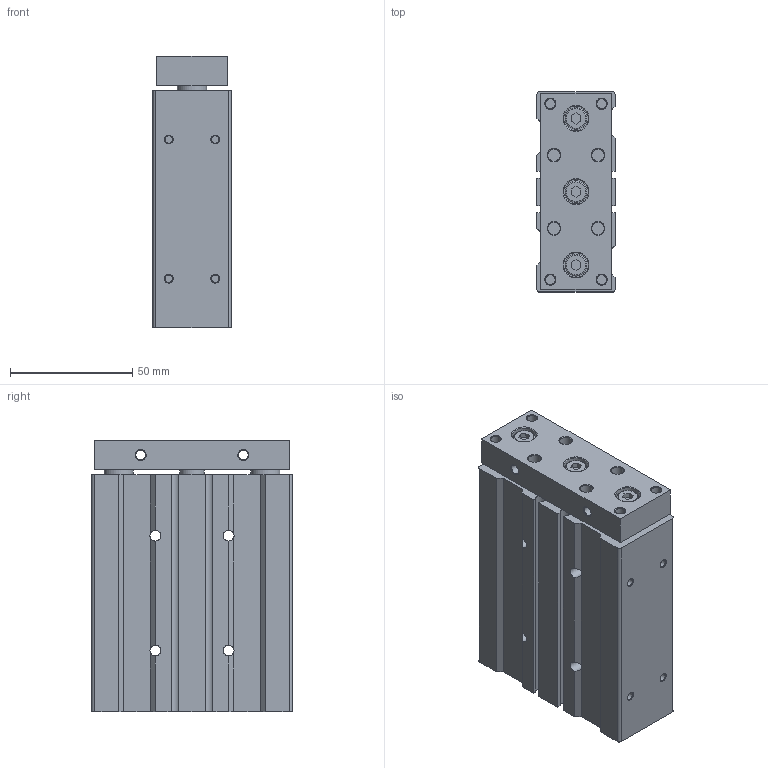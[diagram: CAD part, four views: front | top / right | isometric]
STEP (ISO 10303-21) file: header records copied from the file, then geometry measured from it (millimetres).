
FILE_DESCRIPTION((''),'2;1');
FILE_NAME('I:\3D電子目錄\氣缸\TB(U)\TB(U)20\TB(U)20\TB(U)20x50.stp','2007-08-06T08:22:06',('Administrator'),(''),'Autodesk Inventor 2008','Autodesk Inventor 2008','');
FILE_SCHEMA(('AUTOMOTIVE_DESIGN { 1 0 10303 214 1 1 1 1 }'));
Length unit declared in the file: millimetre
Products named in the file (1): TB(U)20X50
Bounding box: 32 x 82 x 111 mm (x, y, z)
Volume: 258537.2 mm3; surface area: 44764.9 mm2
Topology: 1 solids, 1 shells, 188 faces, 424 edges, 268 vertices
Faces by surface type: plane 90, cylinder 50, cone 37, bspline 8, torus 3
Full cylindrical faces by diameter (mm): 3 x4, 4 x6, 4.4 x4, 5 x10, 8 x4, 9 x3, 10 x4, 12 x4, 19 x2, 22 x1
Entity records: 4948 total; most frequent: CARTESIAN_POINT 875, DIRECTION 860, ORIENTED_EDGE 676, AXIS2_PLACEMENT_3D 341, EDGE_CURVE 338, EDGE_LOOP 336, VERTEX_POINT 268, FACE_OUTER_BOUND 188
